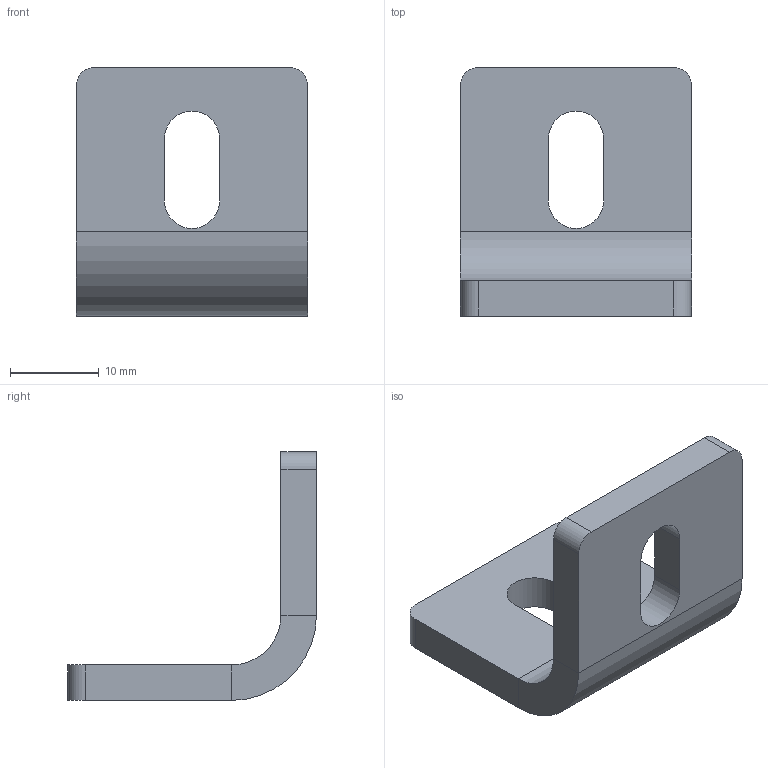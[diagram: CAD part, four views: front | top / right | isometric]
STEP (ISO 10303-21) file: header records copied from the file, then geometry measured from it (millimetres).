
FILE_DESCRIPTION (( 'STEP AP203' ), '1' );
FILE_NAME ('8101s.STEP', '2016-04-05T11:41:28', ( '' ), ( '' ), 'SwSTEP 2.0', 'SolidWorks 2014', '' );
FILE_SCHEMA (( 'CONFIG_CONTROL_DESIGN' ));
Length unit declared in the file: millimetre
Products named in the file (1): 8101s
Bounding box: 26 x 28 x 28 mm (x, y, z)
Volume: 4468.1 mm3; surface area: 3086.2 mm2
Topology: 1 solids, 1 shells, 27 faces, 67 edges, 42 vertices
Faces by surface type: plane 16, cylinder 11
Entity records: 884 total; most frequent: DIRECTION 145, CARTESIAN_POINT 137, ORIENTED_EDGE 134, EDGE_CURVE 67, AXIS2_PLACEMENT_3D 50, VECTOR 45, LINE 45, VERTEX_POINT 42
